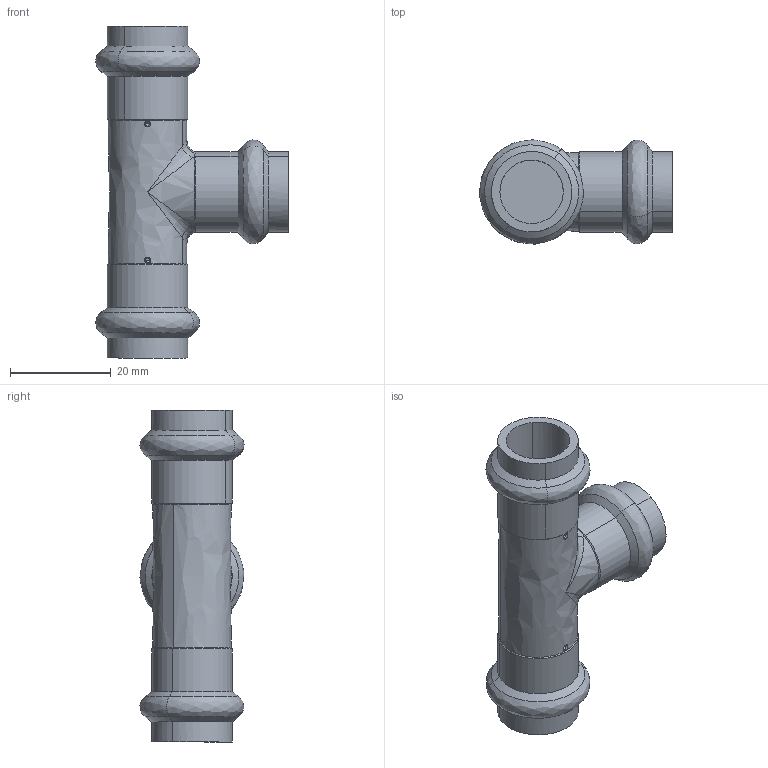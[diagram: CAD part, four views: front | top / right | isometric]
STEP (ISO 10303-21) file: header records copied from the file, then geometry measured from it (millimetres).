
FILE_DESCRIPTION(('STEP AP214'),'1');
FILE_NAME('pim0004513.stp','2015-04-30T06:22:31',('Cad-Pim'),('TransMagic, Inc.'),'TMR11sp0','TransMagic R11',' ');
FILE_SCHEMA(('AUTOMOTIVE_DESIGN'));
Length unit declared in the file: millimetre
Products named in the file (1): pim0004513
Bounding box: 38.35 x 20.69 x 66 mm (x, y, z)
Volume: 12157.8 mm3; surface area: 7449.2 mm2
Topology: 1 solids, 1 shells, 77 faces, 216 edges, 144 vertices
Faces by surface type: bspline 41, cylinder 18, cone 18
Entity records: 4455 total; most frequent: CARTESIAN_POINT 2234, ORIENTED_EDGE 424, EDGE_CURVE 212, DIRECTION 211, VERTEX_POINT 144, EDGE_LOOP 84, AXIS2_PLACEMENT_3D 82, STYLED_ITEM 78
